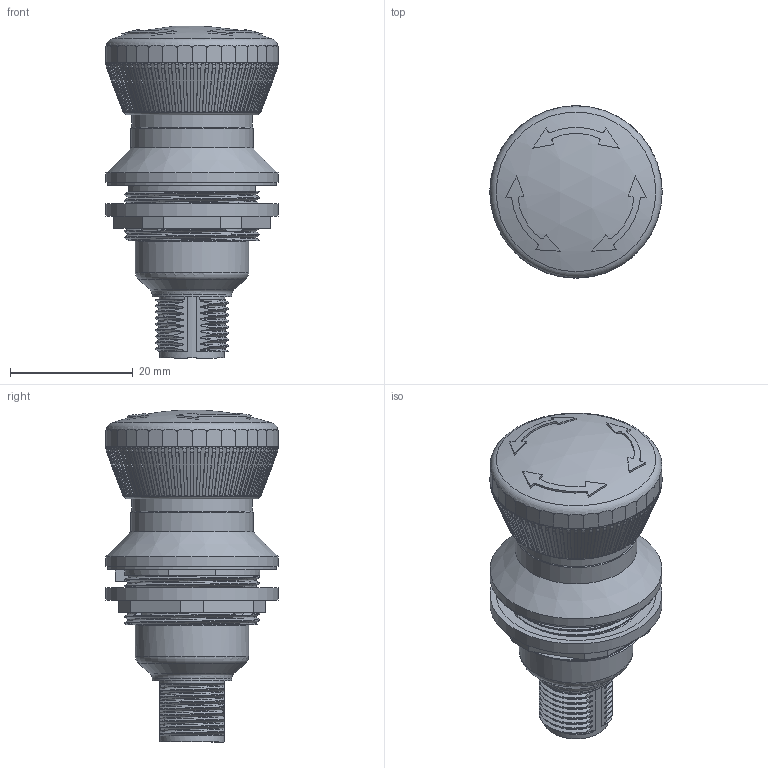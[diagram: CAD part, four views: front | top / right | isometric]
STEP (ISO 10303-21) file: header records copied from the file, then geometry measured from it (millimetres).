
FILE_DESCRIPTION(/* description */ (''),/* implementation_level */ '2;1');
FILE_NAME(/* name */ 'FRVKOOI_C112_vereinfacht.stp',/* time_stamp */ '2024-07-02T07:59:01+02:00',/* author */ ('Sz'),/* organization */ (''),/* preprocessor_version */ 'ST-DEVELOPER v19.2',/* originating_system */ 'Autodesk Inventor 2023',/* authorisation */ '');
FILE_SCHEMA (('AUTOMOTIVE_DESIGN { 1 0 10303 214 3 1 1 }'));
Length unit declared in the file: centimetre
Products named in the file (1): Bauteil5802
Bounding box: 28 x 28 x 54.01 mm (x, y, z)
Volume: 18294.4 mm3; surface area: 7027.4 mm2
Topology: 1 solids, 1 shells, 1017 faces, 2824 edges, 1795 vertices
Faces by surface type: plane 409, torus 225, cylinder 207, bspline 85, cone 82, sphere 9
Full cylindrical faces by diameter (mm): 1 x8, 8.3 x1, 10.5 x1, 13 x1, 18.5 x2, 19.65 x1, 19.85 x1, 20.92 x1, 22 x1, 26 x1, 27.4 x1, 28 x2
Entity records: 45074 total; most frequent: CARTESIAN_POINT 20010, ORIENTED_EDGE 5638, DIRECTION 4433, EDGE_CURVE 2819, AXIS2_PLACEMENT_3D 1839, VERTEX_POINT 1795, EDGE_LOOP 1046, STYLED_ITEM 1018
